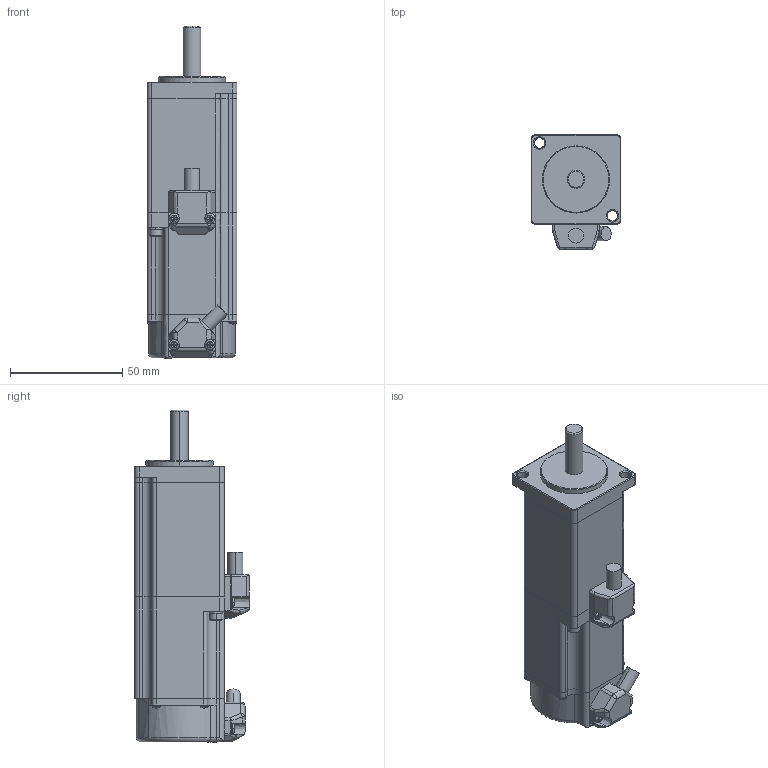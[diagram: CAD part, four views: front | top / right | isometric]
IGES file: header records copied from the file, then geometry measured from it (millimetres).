
Start section: Elysium IGES Interface
Global section: file name: 79H\\nas63\design\04MC研\saka\3DCAD\TBL-i2カタログまとめ\IGSデータ\TS4604_BK有.igs; native system: Creo Elements/Direct Modeling 17.0F  20-Aug-2012; preprocessor: Creo Element/Direct IGES_3D V2.2; author: Unknown; organization: Unknown; date: 20161222.161730; units: millimetre
Bounding box: 40 x 51.1 x 148.1 mm (x, y, z)
Volume: 184392.1 mm3; surface area: 24047.8 mm2
Topology: 1 solids, 1 shells, 562 faces, 1297 edges, 732 vertices
Faces by surface type: bspline 562
